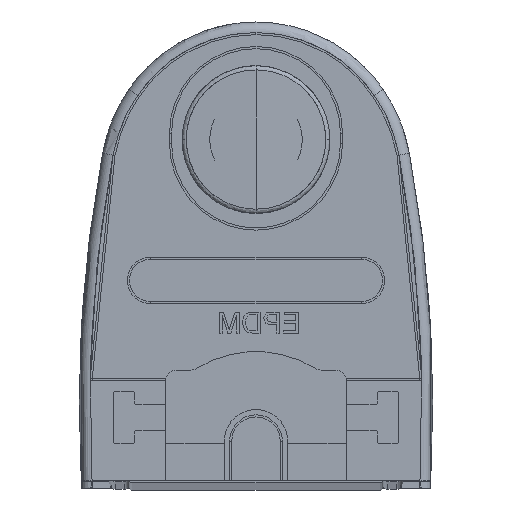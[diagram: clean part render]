
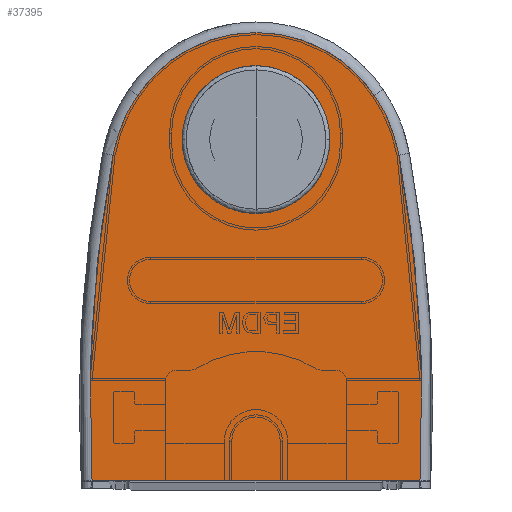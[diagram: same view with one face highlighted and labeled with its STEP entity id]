
A CAD part, top view. The second image highlights one B-rep face of the part: STEP entity #37395.
In plain terms, the highlighted planar face has unit normal (0, 0, 1).
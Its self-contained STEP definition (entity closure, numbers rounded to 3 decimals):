
#109 = DIRECTION ( 'NONE',  ( 1., 0., 0. ) ) ;
#921 = FACE_BOUND ( 'NONE', #7454, .T. ) ;
#2075 = CARTESIAN_POINT ( 'NONE',  ( 4.781, 32.12, 416.5 ) ) ;
#2290 = DIRECTION ( 'NONE',  ( 1., 0., 0. ) ) ;
#3435 = CIRCLE ( 'NONE', #63702, 128.771 ) ;
#3694 = VERTEX_POINT ( 'NONE', #34302 ) ;
#4240 = CARTESIAN_POINT ( 'NONE',  ( 4.781, 33.12, 416.5 ) ) ;
#5761 = CARTESIAN_POINT ( 'NONE',  ( 0., 0.15, 416.5 ) ) ;
#6021 = EDGE_CURVE ( 'NONE', #16628, #59017, #13793, .T. ) ;
#6313 = CARTESIAN_POINT ( 'NONE',  ( 4.781, 0.15, 416.5 ) ) ;
#6598 = ORIENTED_EDGE ( 'NONE', *, *, #68502, .F. ) ;
#7454 = EDGE_LOOP ( 'NONE', ( #9625, #33382, #65096, #19289 ) ) ;
#9625 = ORIENTED_EDGE ( 'NONE', *, *, #63341, .T. ) ;
#10283 = CARTESIAN_POINT ( 'NONE',  ( -11.222, 36.714, 416.5 ) ) ;
#10323 = ORIENTED_EDGE ( 'NONE', *, *, #68216, .F. ) ;
#11163 = CARTESIAN_POINT ( 'NONE',  ( 113.018, 7.401, 416.5 ) ) ;
#11334 = EDGE_CURVE ( 'NONE', #40336, #30295, #56787, .T. ) ;
#13656 = CARTESIAN_POINT ( 'NONE',  ( -1.178, 28.273, 416.5 ) ) ;
#13793 = LINE ( 'NONE', #6313, #27960 ) ;
#14621 = LINE ( 'NONE', #21643, #28801 ) ;
#14625 = CIRCLE ( 'NONE', #42205, 15. ) ;
#15064 = CARTESIAN_POINT ( 'NONE',  ( -4.781, 33.12, 416.5 ) ) ;
#16531 = DIRECTION ( 'NONE',  ( 1., 0., 0. ) ) ;
#16628 = VERTEX_POINT ( 'NONE', #2075 ) ;
#16934 = VERTEX_POINT ( 'NONE', #15064 ) ;
#19009 = DIRECTION ( 'NONE',  ( -1., 0., 0. ) ) ;
#19289 = ORIENTED_EDGE ( 'NONE', *, *, #68921, .T. ) ;
#19563 = DIRECTION ( 'NONE',  ( 0., 0., -1. ) ) ;
#21643 = CARTESIAN_POINT ( 'NONE',  ( -4.781, 0.15, 416.5 ) ) ;
#24178 = VERTEX_POINT ( 'NONE', #48961 ) ;
#25333 = ORIENTED_EDGE ( 'NONE', *, *, #67005, .T. ) ;
#25620 = DIRECTION ( 'NONE',  ( 0., 0., 1. ) ) ;
#26646 = DIRECTION ( 'NONE',  ( 0., 0., -1. ) ) ;
#26753 = VERTEX_POINT ( 'NONE', #10283 ) ;
#27746 = AXIS2_PLACEMENT_3D ( 'NONE', #51473, #19563, #56799 ) ;
#27960 = VECTOR ( 'NONE', #38249, 1000. ) ;
#28500 = CARTESIAN_POINT ( 'NONE',  ( 0., 29.075, 416.5 ) ) ;
#28801 = VECTOR ( 'NONE', #36567, 1000. ) ;
#30295 = VERTEX_POINT ( 'NONE', #48219 ) ;
#31994 = DIRECTION ( 'NONE',  ( 0., 0., -1. ) ) ;
#32380 = AXIS2_PLACEMENT_3D ( 'NONE', #58502, #26646, #63890 ) ;
#32442 = ORIENTED_EDGE ( 'NONE', *, *, #64588, .T. ) ;
#33382 = ORIENTED_EDGE ( 'NONE', *, *, #65712, .T. ) ;
#33787 = DIRECTION ( 'NONE',  ( 1., 0., 0. ) ) ;
#34141 = DIRECTION ( 'NONE',  ( 0., 0., 1. ) ) ;
#34302 = CARTESIAN_POINT ( 'NONE',  ( 11.222, 36.714, 416.5 ) ) ;
#34841 = AXIS2_PLACEMENT_3D ( 'NONE', #66066, #34141, #2290 ) ;
#35125 = CIRCLE ( 'NONE', #27746, 4.781 ) ;
#35348 = CARTESIAN_POINT ( 'NONE',  ( 13.567, 31.025, 416.5 ) ) ;
#36567 = DIRECTION ( 'NONE',  ( 0., 1., 0. ) ) ;
#37194 = AXIS2_PLACEMENT_3D ( 'NONE', #28500, #65732, #33787 ) ;
#37395 = ADVANCED_FACE ( 'NONE', ( #49246, #921 ), #44677, .T. ) ;
#38249 = DIRECTION ( 'NONE',  ( 0., 1., 0. ) ) ;
#39557 = CARTESIAN_POINT ( 'NONE',  ( -4.781, 32.12, 416.5 ) ) ;
#40336 = VERTEX_POINT ( 'NONE', #67120 ) ;
#40964 = VECTOR ( 'NONE', #48380, 1000. ) ;
#42205 = AXIS2_PLACEMENT_3D ( 'NONE', #13656, #50906, #19009 ) ;
#42476 = ORIENTED_EDGE ( 'NONE', *, *, #65834, .T. ) ;
#44677 = PLANE ( 'NONE',  #34841 ) ;
#45279 = EDGE_LOOP ( 'NONE', ( #49533, #6598, #10323, #25333, #42476, #32442 ) ) ;
#47719 = CIRCLE ( 'NONE', #65471, 4.781 ) ;
#48219 = CARTESIAN_POINT ( 'NONE',  ( 15.548, 0.15, 416.5 ) ) ;
#48380 = DIRECTION ( 'NONE',  ( 1., 0., 0. ) ) ;
#48409 = DIRECTION ( 'NONE',  ( 0., 0., 1. ) ) ;
#48961 = CARTESIAN_POINT ( 'NONE',  ( -13.567, 31.025, 416.5 ) ) ;
#49246 = FACE_OUTER_BOUND ( 'NONE', #45279, .T. ) ;
#49533 = ORIENTED_EDGE ( 'NONE', *, *, #11334, .T. ) ;
#50665 = CIRCLE ( 'NONE', #37194, 13.575 ) ;
#50906 = DIRECTION ( 'NONE',  ( 0., 0., -1. ) ) ;
#51473 = CARTESIAN_POINT ( 'NONE',  ( 0., 33.12, 416.5 ) ) ;
#55121 = VERTEX_POINT ( 'NONE', #39557 ) ;
#56787 = LINE ( 'NONE', #5761, #40964 ) ;
#56799 = DIRECTION ( 'NONE',  ( 1., 0., 0. ) ) ;
#57479 = CARTESIAN_POINT ( 'NONE',  ( 1.178, 28.273, 416.5 ) ) ;
#58502 = CARTESIAN_POINT ( 'NONE',  ( -113.018, 7.401, 416.5 ) ) ;
#59017 = VERTEX_POINT ( 'NONE', #4240 ) ;
#59844 = AXIS2_PLACEMENT_3D ( 'NONE', #57479, #25620, #62831 ) ;
#62831 = DIRECTION ( 'NONE',  ( 1., 0., 0. ) ) ;
#63341 = EDGE_CURVE ( 'NONE', #55121, #16934, #14621, .T. ) ;
#63702 = AXIS2_PLACEMENT_3D ( 'NONE', #11163, #48409, #16531 ) ;
#63727 = VERTEX_POINT ( 'NONE', #35348 ) ;
#63890 = DIRECTION ( 'NONE',  ( -1., 0., 0. ) ) ;
#63914 = CARTESIAN_POINT ( 'NONE',  ( 0., 32.12, 416.5 ) ) ;
#64507 = CIRCLE ( 'NONE', #32380, 128.771 ) ;
#64588 = EDGE_CURVE ( 'NONE', #24178, #40336, #3435, .T. ) ;
#65096 = ORIENTED_EDGE ( 'NONE', *, *, #6021, .F. ) ;
#65471 = AXIS2_PLACEMENT_3D ( 'NONE', #63914, #31994, #109 ) ;
#65712 = EDGE_CURVE ( 'NONE', #16934, #59017, #35125, .T. ) ;
#65732 = DIRECTION ( 'NONE',  ( 0., 0., 1. ) ) ;
#65834 = EDGE_CURVE ( 'NONE', #26753, #24178, #67551, .T. ) ;
#66066 = CARTESIAN_POINT ( 'NONE',  ( 0., 0.15, 416.5 ) ) ;
#67005 = EDGE_CURVE ( 'NONE', #3694, #26753, #50665, .T. ) ;
#67120 = CARTESIAN_POINT ( 'NONE',  ( -15.548, 0.15, 416.5 ) ) ;
#67551 = CIRCLE ( 'NONE', #59844, 15. ) ;
#68216 = EDGE_CURVE ( 'NONE', #3694, #63727, #14625, .T. ) ;
#68502 = EDGE_CURVE ( 'NONE', #63727, #30295, #64507, .T. ) ;
#68921 = EDGE_CURVE ( 'NONE', #16628, #55121, #47719, .T. ) ;
